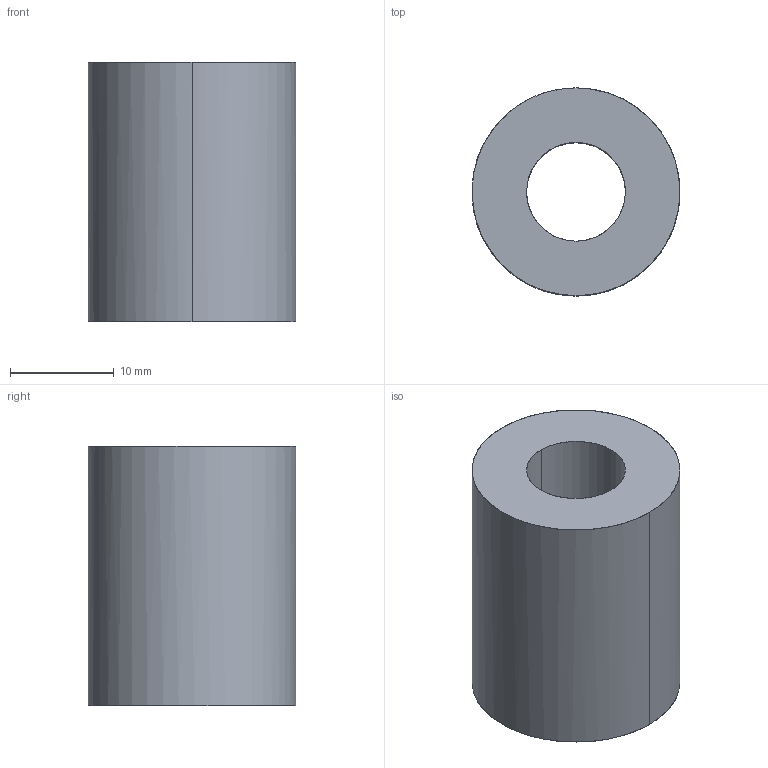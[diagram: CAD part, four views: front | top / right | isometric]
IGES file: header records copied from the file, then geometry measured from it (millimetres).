
Global section: file name: E:\UnigraphicsGraphicData\MISUMI_PRESS-PARTS\IGES\3d_swx20-25_00763_r00.igs; native system: NX V5.0; preprocessor: UGS NX IGES V5.0; author: MISUMI; date: 20110105.163301; units: millimetre
Bounding box: 20 x 20 x 25 mm (x, y, z)
Surface area: 2805.1 mm2 (no closed solid volume)
Topology: 0 solids, 0 shells, 6 faces, 48 edges, 48 vertices
Faces by surface type: bspline 6
